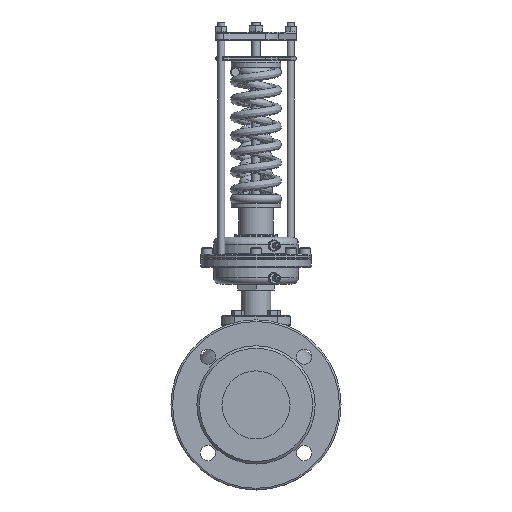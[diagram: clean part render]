
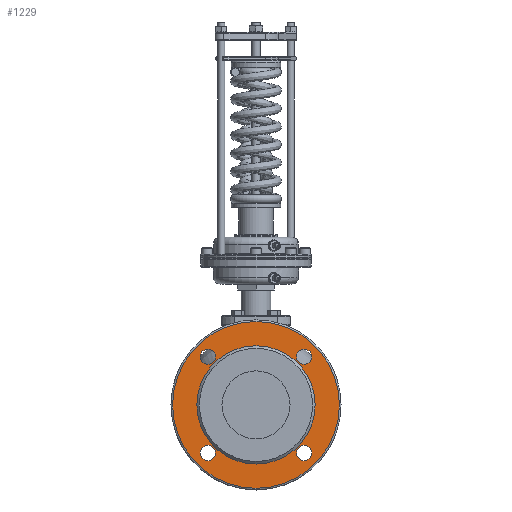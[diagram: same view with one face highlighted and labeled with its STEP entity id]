
A CAD part, front view. The second image highlights one B-rep face of the part: STEP entity #1229.
In plain terms, the highlighted planar face has unit normal (0, -1, 0) as drawn and (1, 0, 0) by its records, which use the part's own axes.
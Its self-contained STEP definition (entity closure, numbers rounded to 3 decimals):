
#1229=ADVANCED_FACE('',(#7261,#7263,#7265,#7267,#7269,#7271),#7273,.T.);
#7261=FACE_BOUND('',#7262,.T.);
#7262=EDGE_LOOP('',(#21552));
#7263=FACE_BOUND('',#7264,.T.);
#7264=EDGE_LOOP('',(#21553));
#7265=FACE_BOUND('',#7266,.T.);
#7266=EDGE_LOOP('',(#21554));
#7267=FACE_BOUND('',#7268,.T.);
#7268=EDGE_LOOP('',(#21555));
#7269=FACE_BOUND('',#7270,.T.);
#7270=EDGE_LOOP('',(#21556));
#7271=FACE_BOUND('',#7272,.T.);
#7272=EDGE_LOOP('',(#21557));
#7273=PLANE('',#7274);
#7274=AXIS2_PLACEMENT_3D('',#7275,#7276,#7277);
#7275=CARTESIAN_POINT('',(152.,0.,0.));
#7276=DIRECTION('',(1.,0.,0.));
#7277=DIRECTION('',(0.,0.,1.));
#21552=ORIENTED_EDGE('',*,*,#23734,.F.);
#21553=ORIENTED_EDGE('',*,*,#23692,.T.);
#21554=ORIENTED_EDGE('',*,*,#23735,.T.);
#21555=ORIENTED_EDGE('',*,*,#23693,.T.);
#21556=ORIENTED_EDGE('',*,*,#23694,.T.);
#21557=ORIENTED_EDGE('',*,*,#23695,.T.);
#23692=EDGE_CURVE('',#24524,#24524,#24525,.T.);
#23693=EDGE_CURVE('',#24526,#24526,#24527,.T.);
#23694=EDGE_CURVE('',#24528,#24528,#24529,.T.);
#23695=EDGE_CURVE('',#24530,#24530,#24531,.T.);
#23734=EDGE_CURVE('',#24600,#24600,#24601,.T.);
#23735=EDGE_CURVE('',#24602,#24602,#24603,.T.);
#24524=VERTEX_POINT('',#27741);
#24525=CIRCLE('',#27742,9.);
#24526=VERTEX_POINT('',#27746);
#24527=CIRCLE('',#27747,9.);
#24528=VERTEX_POINT('',#27751);
#24529=CIRCLE('',#27752,9.);
#24530=VERTEX_POINT('',#27756);
#24531=CIRCLE('',#27757,9.);
#24600=VERTEX_POINT('',#28745);
#24601=CIRCLE('',#28746,98.);
#24602=VERTEX_POINT('',#28750);
#24603=CIRCLE('',#28751,69.5);
#27741=CARTESIAN_POINT('',(152.,-65.569,56.569));
#27742=AXIS2_PLACEMENT_3D('',#27743,#27744,#27745);
#27743=CARTESIAN_POINT('',(152.,-56.569,56.569));
#27744=DIRECTION('',(-1.,0.,0.));
#27745=DIRECTION('',(0.,-1.,0.));
#27746=CARTESIAN_POINT('',(152.,56.569,65.569));
#27747=AXIS2_PLACEMENT_3D('',#27748,#27749,#27750);
#27748=CARTESIAN_POINT('',(152.,56.569,56.569));
#27749=DIRECTION('',(-1.,0.,0.));
#27750=DIRECTION('',(0.,0.,1.));
#27751=CARTESIAN_POINT('',(152.,65.569,-56.569));
#27752=AXIS2_PLACEMENT_3D('',#27753,#27754,#27755);
#27753=CARTESIAN_POINT('',(152.,56.569,-56.569));
#27754=DIRECTION('',(-1.,0.,0.));
#27755=DIRECTION('',(0.,1.,0.));
#27756=CARTESIAN_POINT('',(152.,-56.569,-65.569));
#27757=AXIS2_PLACEMENT_3D('',#27758,#27759,#27760);
#27758=CARTESIAN_POINT('',(152.,-56.569,-56.569));
#27759=DIRECTION('',(-1.,0.,0.));
#27760=DIRECTION('',(0.,0.,-1.));
#28745=CARTESIAN_POINT('',(152.,0.,98.));
#28746=AXIS2_PLACEMENT_3D('',#28747,#28748,#28749);
#28747=CARTESIAN_POINT('',(152.,0.,0.));
#28748=DIRECTION('',(-1.,0.,0.));
#28749=DIRECTION('',(0.,0.,1.));
#28750=CARTESIAN_POINT('',(152.,0.,69.5));
#28751=AXIS2_PLACEMENT_3D('',#28752,#28753,#28754);
#28752=CARTESIAN_POINT('',(152.,0.,0.));
#28753=DIRECTION('',(-1.,0.,0.));
#28754=DIRECTION('',(0.,0.,1.));
